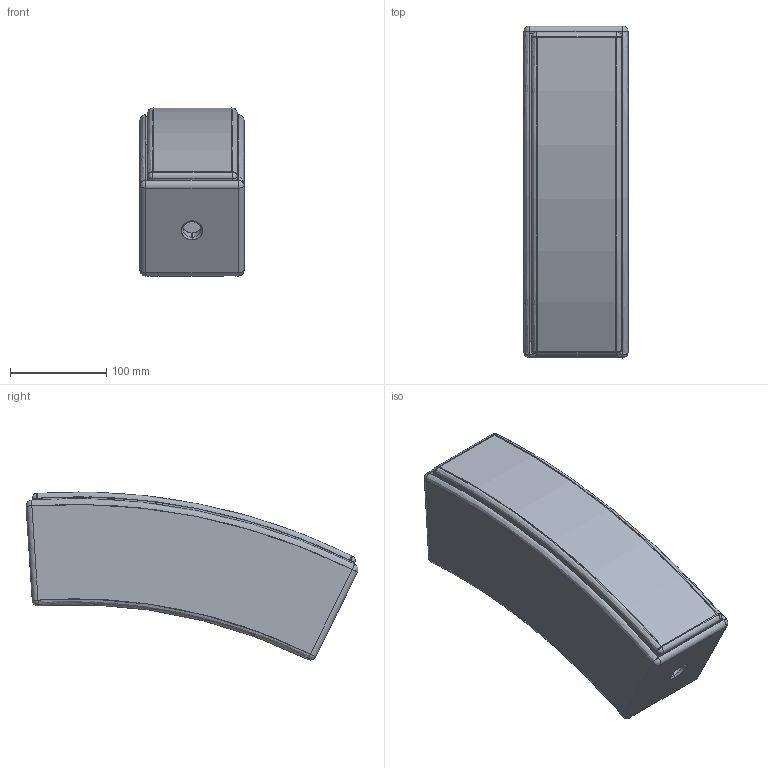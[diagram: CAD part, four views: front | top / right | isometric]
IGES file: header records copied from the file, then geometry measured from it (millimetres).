
Start section: SolidWorks IGES file using analytic representation for surfaces
Global section: file name: C:\Dokumente und Einstellungen\PC_Fabian\Desktop\SW-Konstruktionen Michl2010\L-Serie\L4c\Internet\SEEBURG_L4c.IGS; native system: SolidWorks 2009; preprocessor: SolidWorks 2009; author: PC_Fabian; date: 120926.115207; units: millimetre
Bounding box: 108 x 344.49 x 174.41 mm (x, y, z)
Surface area: 384455.6 mm2 (no closed solid volume)
Topology: 0 solids, 0 shells, 115 faces, 1344 edges, 1340 vertices
Faces by surface type: revolution 69, bspline 46
